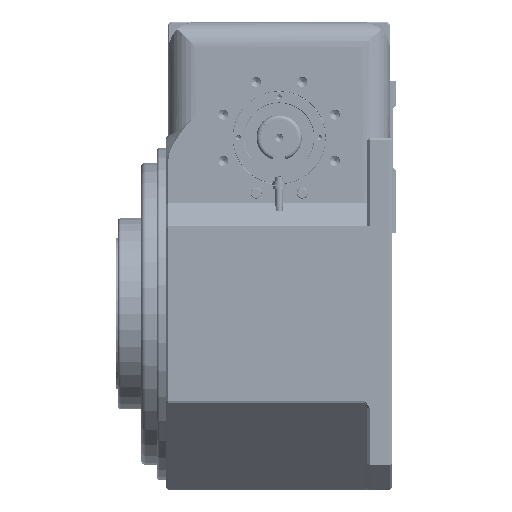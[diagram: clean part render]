
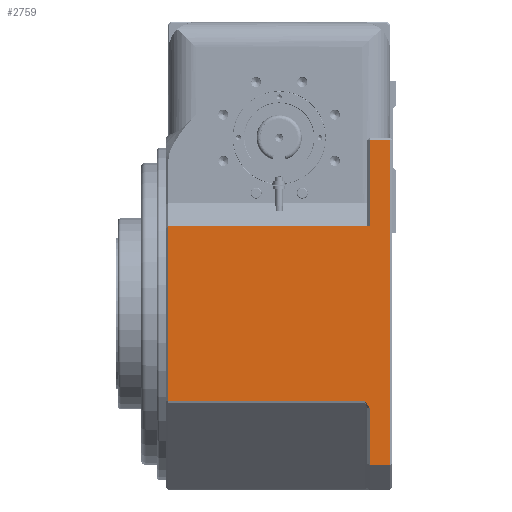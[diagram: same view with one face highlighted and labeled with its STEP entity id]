
A CAD part, left-side view. The second image highlights one B-rep face of the part: STEP entity #2759.
In plain terms, the highlighted planar face has unit normal (-1, 0, 0).
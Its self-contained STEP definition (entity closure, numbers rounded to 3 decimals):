
#2759 = ADVANCED_FACE ( 'NONE', ( #185469 ), #5112, .F. ) ;
#4109 = CARTESIAN_POINT ( 'NONE',  ( -740., -180., -650. ) ) ;
#5014 = CARTESIAN_POINT ( 'NONE',  ( -740., -180., -175. ) ) ;
#5112 = PLANE ( 'NONE',  #27595 ) ;
#8835 = CARTESIAN_POINT ( 'NONE',  ( -740., 220., -525. ) ) ;
#17278 = CARTESIAN_POINT ( 'NONE',  ( -740., 220., -175. ) ) ;
#23817 = ORIENTED_EDGE ( 'NONE', *, *, #221534, .T. ) ;
#27560 = VERTEX_POINT ( 'NONE', #62813 ) ;
#27595 = AXIS2_PLACEMENT_3D ( 'NONE', #110081, #185099, #151829 ) ;
#29705 = DIRECTION ( 'NONE',  ( 0., -1., 0. ) ) ;
#29828 = ORIENTED_EDGE ( 'NONE', *, *, #76706, .T. ) ;
#31362 = CARTESIAN_POINT ( 'NONE',  ( -740., -180., -650. ) ) ;
#33652 = VERTEX_POINT ( 'NONE', #218575 ) ;
#34987 = ORIENTED_EDGE ( 'NONE', *, *, #108349, .T. ) ;
#37236 = LINE ( 'NONE', #4109, #103412 ) ;
#37358 = ORIENTED_EDGE ( 'NONE', *, *, #99923, .T. ) ;
#38343 = VERTEX_POINT ( 'NONE', #150058 ) ;
#47941 = DIRECTION ( 'NONE',  ( 0., 0., 1. ) ) ;
#49464 = CARTESIAN_POINT ( 'NONE',  ( -740., 225., -522.929 ) ) ;
#52907 = LINE ( 'NONE', #49464, #224164 ) ;
#53202 = LINE ( 'NONE', #8835, #102948 ) ;
#56183 = VECTOR ( 'NONE', #132200, 1000. ) ;
#57107 = CARTESIAN_POINT ( 'NONE',  ( -740., -220., -650. ) ) ;
#57429 = LINE ( 'NONE', #68320, #223182 ) ;
#57589 = VERTEX_POINT ( 'NONE', #5014 ) ;
#62813 = CARTESIAN_POINT ( 'NONE',  ( -740., -180., -650. ) ) ;
#63194 = VECTOR ( 'NONE', #47941, 1000. ) ;
#63267 = VERTEX_POINT ( 'NONE', #17278 ) ;
#68320 = CARTESIAN_POINT ( 'NONE',  ( -740., 225., -650. ) ) ;
#76365 = CARTESIAN_POINT ( 'NONE',  ( -740., -170., -522.929 ) ) ;
#76562 = VERTEX_POINT ( 'NONE', #162473 ) ;
#76706 = EDGE_CURVE ( 'NONE', #185556, #27560, #37236, .T. ) ;
#85541 = ORIENTED_EDGE ( 'NONE', *, *, #162310, .T. ) ;
#87963 = ORIENTED_EDGE ( 'NONE', *, *, #122293, .T. ) ;
#93600 = DIRECTION ( 'NONE',  ( 0., 0., -1. ) ) ;
#94064 = CARTESIAN_POINT ( 'NONE',  ( -740., -180., -537.071 ) ) ;
#99923 = EDGE_CURVE ( 'NONE', #178126, #57589, #221842, .T. ) ;
#101568 = ORIENTED_EDGE ( 'NONE', *, *, #213052, .T. ) ;
#102948 = VECTOR ( 'NONE', #164896, 1000. ) ;
#103412 = VECTOR ( 'NONE', #93600, 1000. ) ;
#107981 = EDGE_CURVE ( 'NONE', #38343, #185556, #158413, .T. ) ;
#108349 = EDGE_CURVE ( 'NONE', #27560, #197973, #57429, .T. ) ;
#110081 = CARTESIAN_POINT ( 'NONE',  ( -740., 225., -650. ) ) ;
#121577 = EDGE_LOOP ( 'NONE', ( #142454, #228106, #29828, #34987, #87963, #85541, #37358, #23817, #101568 ) ) ;
#122293 = EDGE_CURVE ( 'NONE', #197973, #33652, #217894, .T. ) ;
#132200 = DIRECTION ( 'NONE',  ( 0., 1., 0. ) ) ;
#135146 = DIRECTION ( 'NONE',  ( 0., -1., 0. ) ) ;
#142454 = ORIENTED_EDGE ( 'NONE', *, *, #184538, .T. ) ;
#146932 = CARTESIAN_POINT ( 'NONE',  ( -740., -180., -5. ) ) ;
#150058 = CARTESIAN_POINT ( 'NONE',  ( -740., -170., -522.929 ) ) ;
#151829 = DIRECTION ( 'NONE',  ( 0., 0., -1. ) ) ;
#158413 = B_SPLINE_CURVE_WITH_KNOTS ( 'NONE', 1,
 ( #76365, #94064 ),
 .UNSPECIFIED., .F., .F.,
 ( 2, 2 ),
 ( 0., 0.017 ),
 .UNSPECIFIED. ) ;
#162310 = EDGE_CURVE ( 'NONE', #33652, #178126, #174419, .T. ) ;
#162473 = CARTESIAN_POINT ( 'NONE',  ( -740., 220., -522.929 ) ) ;
#164896 = DIRECTION ( 'NONE',  ( 0., 0., -1. ) ) ;
#174419 = LINE ( 'NONE', #178647, #215783 ) ;
#174929 = VECTOR ( 'NONE', #207462, 1000. ) ;
#175635 = DIRECTION ( 'NONE',  ( 0., 1., 0. ) ) ;
#178126 = VERTEX_POINT ( 'NONE', #146932 ) ;
#178647 = CARTESIAN_POINT ( 'NONE',  ( -740., 225., -5. ) ) ;
#184538 = EDGE_CURVE ( 'NONE', #76562, #38343, #52907, .T. ) ;
#185099 = DIRECTION ( 'NONE',  ( 1., 0., 0. ) ) ;
#185469 = FACE_OUTER_BOUND ( 'NONE', #121577, .T. ) ;
#185556 = VERTEX_POINT ( 'NONE', #224535 ) ;
#194231 = LINE ( 'NONE', #206262, #56183 ) ;
#197973 = VERTEX_POINT ( 'NONE', #57107 ) ;
#206262 = CARTESIAN_POINT ( 'NONE',  ( -740., -175., -175. ) ) ;
#207462 = DIRECTION ( 'NONE',  ( 0., 0., -1. ) ) ;
#208554 = CARTESIAN_POINT ( 'NONE',  ( -740., -220., -650. ) ) ;
#213052 = EDGE_CURVE ( 'NONE', #63267, #76562, #53202, .T. ) ;
#215783 = VECTOR ( 'NONE', #175635, 1000. ) ;
#217894 = LINE ( 'NONE', #208554, #63194 ) ;
#218575 = CARTESIAN_POINT ( 'NONE',  ( -740., -220., -5. ) ) ;
#221534 = EDGE_CURVE ( 'NONE', #57589, #63267, #194231, .T. ) ;
#221842 = LINE ( 'NONE', #31362, #174929 ) ;
#223182 = VECTOR ( 'NONE', #29705, 1000. ) ;
#224164 = VECTOR ( 'NONE', #135146, 1000. ) ;
#224535 = CARTESIAN_POINT ( 'NONE',  ( -740., -180., -537.071 ) ) ;
#228106 = ORIENTED_EDGE ( 'NONE', *, *, #107981, .T. ) ;
